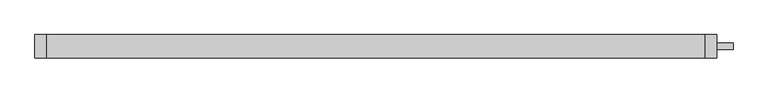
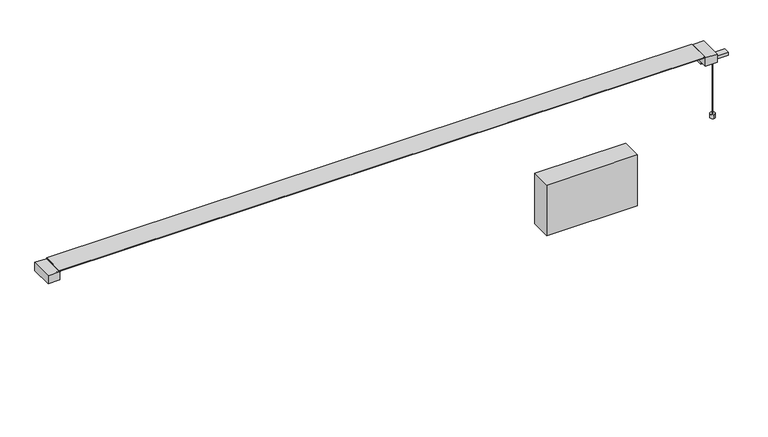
"""IFC4 building model written with IfcOpenShell, lengths in millimetres: light fixture geometry, Fabbian.Pivot F39 (F39 A01A 01,F39 A01A 21,F39 A01A 76,F39 A02A 01,F39 A02A 21,F39 A02A 76) : F39 A01A 01."""

from ifc_helpers import new_model, si_unit, point, frame, frame_2d, origin, origin_with_axes, place, context, project, spatial, polyline, circle_curve, trimmed, segment, composite_curve, outline, extrude, source, transform, mapped, element, save


def light_fixture_7fb10494(model_context):
    return source(origin(), model_context, "Body", "SweptSolid", [
        extrude(outline(composite_curve([segment(trimmed(circle_curve(frame_2d((815.8132834, 0.0)), 0.4949808), [point((816.3082642, 0.0))], [point((815.3183026, 0.0))], False, "CARTESIAN"), True, "CONTINUOUS"), segment(trimmed(circle_curve(frame_2d((815.8132834, 0.0)), 0.4949808), [point((815.3183026, 0.0))], [point((816.3082642, 0.0))], False, "CARTESIAN"), True, "CONTINUOUS")], self_intersect=False)), origin_with_axes(), (0.0, 0.0, 1.0), 151.6242394),
        extrude(outline(polyline([(619.1350388, -24.9666442), (399.1348055, -24.9666442), (399.1348055, 25.0334567), (619.1350388, 25.0334567), (619.1350388, -24.9666442)])), frame((0.0, 0.0, -142.875), z_axis=(0.0, 0.0, 1.0), x_axis=(1.0, 0.0, 0.0)), (0.0, 0.0, 1.0), 130.175),
        extrude(outline(polyline([(0.4107254, 159.893756), (0.4107254, 160.681594), (-0.4107259, 160.681594), (-0.4107259, 159.893756), (-25.5497693, 181.0787506), (26.3879175, 181.0787506), (0.4107254, 159.893756)])), frame((-782.3132834, 0.0, 0.0), z_axis=(1.0, 0.0, 0.0), x_axis=(0.0, 1.0, 0.0)), (0.0, 0.0, 1.0), 1564.6265668),
        extrude(outline(polyline([(-782.3132834, -27.7285043), (-810.5140956, -27.7285043), (-810.5140956, 27.7953166), (-782.3132834, 27.7953166), (-782.3132834, -27.7285043)])), frame((0.0, 0.0, 159.6242394), z_axis=(0.0, 0.0, 1.0), x_axis=(1.0, 0.0, 0.0)), (0.0, 0.0, 1.0), 20.8761838),
        extrude(outline(polyline([(782.3132834, -27.7285042), (782.3132834, 27.7953167), (810.5140956, 27.7953167), (810.5140956, -27.7285042), (782.3132834, -27.7285042)])), frame((0.0, 0.0, 159.6242394), z_axis=(0.0, 0.0, 1.0), x_axis=(1.0, 0.0, 0.0)), (0.0, 0.0, 1.0), 20.8761838),
        extrude(outline(polyline([(0.0, 0.8214513), (1564.6265668, 0.8214513), (1564.6265668, 0.0), (0.0, 0.0), (0.0, 0.8214513)])), frame((-782.3132834, -0.4107259, 159.893756), z_axis=(-5.7155291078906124e-11, 0.0, 1.0), x_axis=(1.0, 0.0, 5.7155291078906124e-11)), (0.0, 0.0, 1.0), 0.787838),
        extrude(outline(polyline([(781.7488887, 27.7780006), (781.7488887, -27.7779986), (-782.3132834, -27.7779986), (-782.3132834, 27.7780006), (781.7488887, 27.7780006)])), frame((0.0, 0.0, 181.0787506), z_axis=(0.0, 0.0, 1.0), x_axis=(1.0, 0.0, 0.0)), (0.0, 0.0, 1.0), 1.1514277),
        extrude(outline(composite_curve([segment(trimmed(circle_curve(frame_2d((815.8133121, 0.4556113)), 5.8155806), [point((816.6410047, -5.3007681))], [point((814.9856195, 6.2119906))], False, "CARTESIAN"), True, "CONTINUOUS"), segment(trimmed(circle_curve(frame_2d((815.8133121, 0.4556113)), 5.8155806), [point((814.9856195, 6.2119906))], [point((816.6410047, -5.3007681))], False, "CARTESIAN"), True, "CONTINUOUS")], self_intersect=False)), origin_with_axes(), (0.0, 0.0, 1.0), 9.6582083),
        extrude(outline(polyline([(849.3132834, 7.5334062), (849.3132834, -7.4665938), (782.3132834, -7.4665938), (782.3132834, 7.5334062), (849.3132834, 7.5334062)])), frame((0.0, 0.0, 151.6242394), z_axis=(0.0, 0.0, 1.0), x_axis=(1.0, 0.0, 0.0)), (0.0, 0.0, 1.0), 8.0),
    ])


if __name__ == "__main__":
    model = new_model("IFC4")
    model_context = context("Model", 3, world=origin())
    ifc_project = project(units=[si_unit("LENGTHUNIT", "METRE", prefix="MILLI")], contexts=[model_context])
    site = spatial("IfcSite", under=ifc_project)
    building = spatial("IfcBuilding", under=site)
    placement = place(None, origin())
    light_fixture_shape = light_fixture_7fb10494(model_context)
    element("IfcLightFixture", 1, ObjectType="Fabbian.Pivot F39 (F39 A01A 01,F39 A01A 21,F39 A01A 76,F39 A02A 01,F39 A02A 21,F39 A02A 76) : F39 A01A 01", at=placement, inside=building, context=model_context, shape_type="MappedRepresentation", body=[
        mapped(light_fixture_shape, transform((0.0, 0.0, 0.0), x_axis=(1.0, 0.0, 0.0), y_axis=(0.0, 1.0, 0.0), z_axis=(0.0, 0.0, 1.0))),
    ])
    save(model, "model.ifc")
